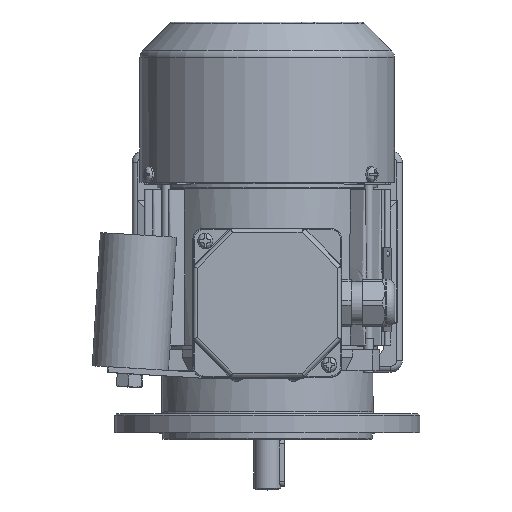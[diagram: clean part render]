
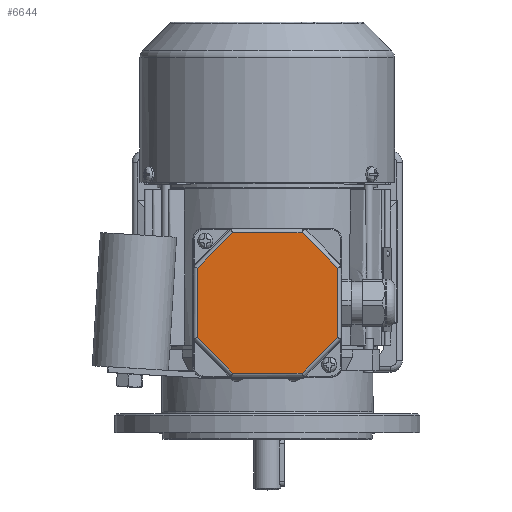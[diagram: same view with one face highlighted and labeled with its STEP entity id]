
A CAD part, top view. The second image highlights one B-rep face of the part: STEP entity #6644.
In plain terms, the highlighted planar face has unit normal (0, 0, 1).
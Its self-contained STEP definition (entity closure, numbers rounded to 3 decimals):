
#6644 = ADVANCED_FACE( '', ( #13846 ), #13847, .T. );
#13846 = FACE_OUTER_BOUND( '', #45543, .T. );
#13847 = PLANE( '', #45544 );
#45543 = EDGE_LOOP( '', ( #75479, #75480, #75481, #75482, #75483, #75484, #75485, #75486 ) );
#45544 = AXIS2_PLACEMENT_3D( '', #75487, #75488, #75489 );
#75479 = ORIENTED_EDGE( '', *, *, #87191, .T. );
#75480 = ORIENTED_EDGE( '', *, *, #83312, .T. );
#75481 = ORIENTED_EDGE( '', *, *, #88960, .T. );
#75482 = ORIENTED_EDGE( '', *, *, #88961, .T. );
#75483 = ORIENTED_EDGE( '', *, *, #88962, .T. );
#75484 = ORIENTED_EDGE( '', *, *, #88837, .T. );
#75485 = ORIENTED_EDGE( '', *, *, #88963, .T. );
#75486 = ORIENTED_EDGE( '', *, *, #83867, .T. );
#75487 = CARTESIAN_POINT( '', ( -39., 39., 12. ) );
#75488 = DIRECTION( '', ( 0., 0., 1. ) );
#75489 = DIRECTION( '', ( 1., 0., 0. ) );
#83312 = EDGE_CURVE( '', #93498, #93499, #93500, .T. );
#83867 = EDGE_CURVE( '', #94399, #94397, #94400, .T. );
#87191 = EDGE_CURVE( '', #94397, #93498, #99483, .F. );
#88837 = EDGE_CURVE( '', #101588, #101210, #101589, .T. );
#88960 = EDGE_CURVE( '', #93499, #100399, #101731, .F. );
#88961 = EDGE_CURVE( '', #100399, #101732, #101733, .T. );
#88962 = EDGE_CURVE( '', #101732, #101588, #101734, .F. );
#88963 = EDGE_CURVE( '', #101210, #94399, #101735, .F. );
#93498 = VERTEX_POINT( '', #113780 );
#93499 = VERTEX_POINT( '', #113781 );
#93500 = LINE( '', #113782, #113783 );
#94397 = VERTEX_POINT( '', #116835 );
#94399 = VERTEX_POINT( '', #116837 );
#94400 = LINE( '', #116838, #116839 );
#99483 = LINE( '', #133289, #133290 );
#100399 = VERTEX_POINT( '', #136848 );
#101210 = VERTEX_POINT( '', #139455 );
#101588 = VERTEX_POINT( '', #140367 );
#101589 = LINE( '', #140368, #140369 );
#101731 = LINE( '', #141207, #141208 );
#101732 = VERTEX_POINT( '', #141209 );
#101733 = LINE( '', #141210, #141211 );
#101734 = LINE( '', #141212, #141213 );
#101735 = LINE( '', #141214, #141215 );
#113780 = CARTESIAN_POINT( '', ( 36.825, 18.255, 12. ) );
#113781 = CARTESIAN_POINT( '', ( 18.255, 36.825, 12. ) );
#113782 = CARTESIAN_POINT( '', ( 17.679, 37.401, 12. ) );
#113783 = VECTOR( '', #147673, 1000. );
#116835 = CARTESIAN_POINT( '', ( 36.825, -18.255, 12. ) );
#116837 = CARTESIAN_POINT( '', ( 18.255, -36.825, 12. ) );
#116838 = CARTESIAN_POINT( '', ( 37.401, -17.679, 12. ) );
#116839 = VECTOR( '', #148277, 1000. );
#133289 = CARTESIAN_POINT( '', ( 36.825, 19.069, 12. ) );
#133290 = VECTOR( '', #152124, 1000. );
#136848 = CARTESIAN_POINT( '', ( -18.255, 36.825, 12. ) );
#139455 = CARTESIAN_POINT( '', ( -18.255, -36.825, 12. ) );
#140367 = CARTESIAN_POINT( '', ( -36.825, -18.255, 12. ) );
#140368 = CARTESIAN_POINT( '', ( -17.679, -37.401, 12. ) );
#140369 = VECTOR( '', #153861, 1000. );
#141207 = CARTESIAN_POINT( '', ( -19.069, 36.825, 12. ) );
#141208 = VECTOR( '', #153938, 1000. );
#141209 = CARTESIAN_POINT( '', ( -36.825, 18.255, 12. ) );
#141210 = CARTESIAN_POINT( '', ( -37.401, 17.679, 12. ) );
#141211 = VECTOR( '', #153939, 1000. );
#141212 = CARTESIAN_POINT( '', ( -36.825, -19.069, 12. ) );
#141213 = VECTOR( '', #153940, 1000. );
#141214 = CARTESIAN_POINT( '', ( 19.069, -36.825, 12. ) );
#141215 = VECTOR( '', #153941, 1000. );
#147673 = DIRECTION( '', ( -0.707, 0.707, 0. ) );
#148277 = DIRECTION( '', ( 0.707, 0.707, 0. ) );
#152124 = DIRECTION( '', ( 0., -1., 0. ) );
#153861 = DIRECTION( '', ( 0.707, -0.707, 0. ) );
#153938 = DIRECTION( '', ( 1., 0., 0. ) );
#153939 = DIRECTION( '', ( -0.707, -0.707, 0. ) );
#153940 = DIRECTION( '', ( 0., 1., 0. ) );
#153941 = DIRECTION( '', ( -1., 0., 0. ) );
